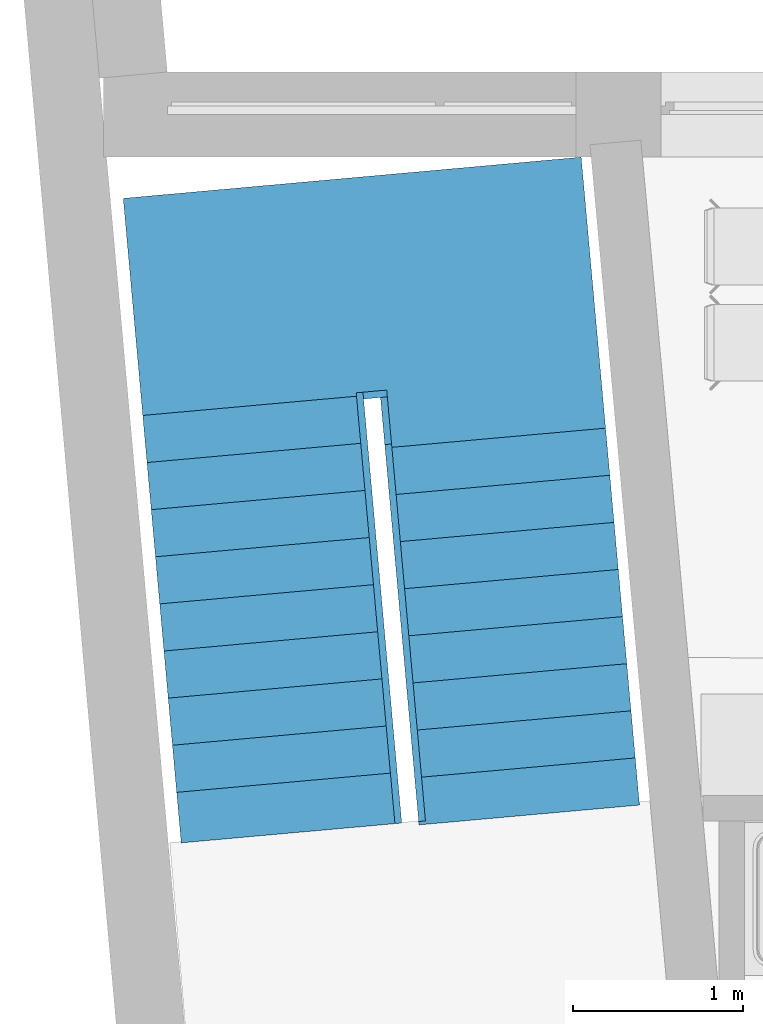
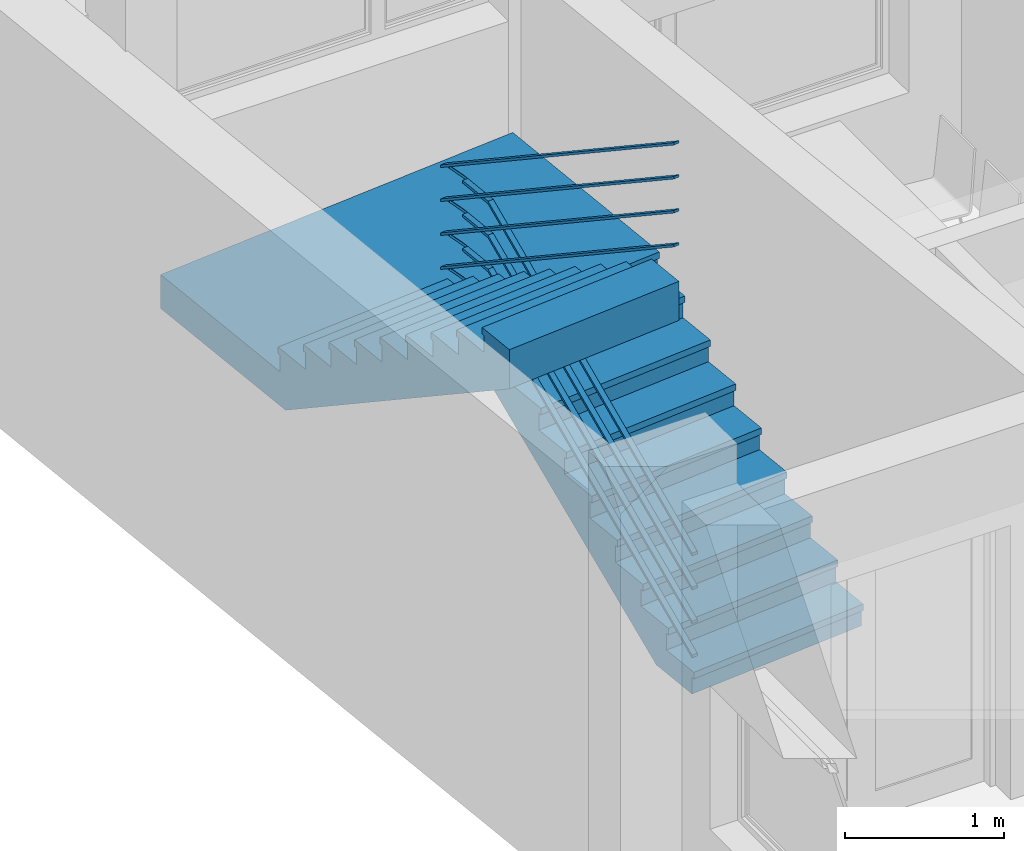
# One storey, part 21 of 165: 1 stair.
"""IFC2X3 building model written with IfcOpenShell, lengths in millimetres."""

import ifcopenshell
import ifcopenshell.guid

model = None  # the IFC model being written
_history = None  # IfcOwnerHistory: only IFC2X3 demands one
_inside = {}  # id of a spatial element -> (the spatial element, [elements in it])
_under = {}  # id of a project, library or spatial element -> (it, [spatial elements below it])
_declared = {}  # id of a project -> (the project, [libraries it declares])
_typed = {}  # id of a type object -> (the type object, [elements of that type])
_made_of = {}  # id of a material, layer set ... -> (it, [elements and type objects made of it])


def new_model(schema):
    """Start an empty IFC model of exactly this schema.

    Asked for "IFC4X3", IfcOpenShell would pick the latest addendum, in which some entities
    have other attributes; the version numbers below select the first issue.
    IFC2X3 requires an IfcOwnerHistory on every rooted entity: one is made here for all.
    """
    global model, _history
    if schema == "IFC4X3":
        model = ifcopenshell.file(schema_version=(4, 3, 0, 0))
    else:
        model = ifcopenshell.file(schema=schema)
    _inside.clear()
    _under.clear()
    _declared.clear()
    _typed.clear()
    _made_of.clear()
    _history = None
    if model.schema == "IFC2X3":
        org = make("IfcOrganization", Name="unknown")
        user = make(
            "IfcPersonAndOrganization",
            ThePerson=make("IfcPerson", FamilyName="unknown"),
            TheOrganization=org,
        )
        app = make(
            "IfcApplication",
            ApplicationDeveloper=org,
            Version="unknown",
            ApplicationFullName="unknown",
            ApplicationIdentifier="unknown",
        )
        _history = make(
            "IfcOwnerHistory",
            OwningUser=user,
            OwningApplication=app,
            ChangeAction="ADDED",
            CreationDate=0,
        )
    return model


def make(cls, **values):
    """One entity of the class cls with the attributes given. An attribute that is None is left unset."""
    return model.create_entity(
        cls, **{name: value for name, value in values.items() if value is not None}
    )


def entity(cls, *values):
    """Any entity or typed value of the class cls, its attributes in the order of the schema. None: left unset."""
    e = model.create_entity(cls)
    for i, value in enumerate(values):
        if value is not None:
            e[i] = value
    return e


def rooted(cls, **values):
    """An entity with a GlobalId (a new one), such as an element, a storey or a relation."""
    return make(cls, GlobalId=ifcopenshell.guid.new(), OwnerHistory=_history, **values)


def si_unit(unit_type, name, prefix=None):
    """IfcSIUnit, for example si_unit("LENGTHUNIT", "METRE", prefix="MILLI")."""
    return make("IfcSIUnit", UnitType=unit_type, Prefix=prefix, Name=name)


def converted_unit(unit_type, name, factor, base, dimensions=None, offset=None):
    """IfcConversionBasedUnit, such as the inch: factor (a typed value) times the base unit."""
    return make(
        "IfcConversionBasedUnit"
        if offset is None
        else "IfcConversionBasedUnitWithOffset",
        ConversionOffset=offset,
        Dimensions=None
        if dimensions is None
        else entity("IfcDimensionalExponents", *dimensions),
        UnitType=unit_type,
        Name=name,
        ConversionFactor=make(
            "IfcMeasureWithUnit", ValueComponent=factor, UnitComponent=base
        ),
    )


def money_unit(currency):
    """IfcMonetaryUnit."""
    return make("IfcMonetaryUnit", Currency=currency)


def assignment(units):
    """IfcUnitAssignment: the units of a project."""
    return None if units is None else make("IfcUnitAssignment", Units=units)


def point(xyz):
    """IfcCartesianPoint."""
    return None if xyz is None else make("IfcCartesianPoint", Coordinates=xyz)


def direction(xyz):
    """IfcDirection."""
    return None if xyz is None else make("IfcDirection", DirectionRatios=xyz)


def frame(location, z_axis=None, x_axis=None):
    """IfcAxis2Placement3D, a coordinate frame: its origin and axes. An axis left out is left unset."""
    return make(
        "IfcAxis2Placement3D",
        Location=point(location),
        Axis=direction(z_axis),
        RefDirection=direction(x_axis),
    )


def origin_with_axes():
    """The frame at (0, 0, 0) with the z axis (0, 0, 1) and the x axis (1, 0, 0) written out."""
    return frame((0.0, 0.0, 0.0), z_axis=(0.0, 0.0, 1.0), x_axis=(1.0, 0.0, 0.0))


def place(relative_to, where):
    """IfcLocalPlacement: puts the frame where relative to a parent placement (None: the world)."""
    return make(
        "IfcLocalPlacement", PlacementRelTo=relative_to, RelativePlacement=where
    )


def context(
    kind, dimensions, precision=None, world=None, true_north=None, identifier=None
):
    """IfcGeometricRepresentationContext, for example the 3D "Model" context."""
    return make(
        "IfcGeometricRepresentationContext",
        ContextIdentifier=identifier,
        ContextType=kind,
        CoordinateSpaceDimension=dimensions,
        Precision=precision,
        WorldCoordinateSystem=world,
        TrueNorth=true_north,
    )


def subcontext(parent, identifier, kind, view, scale=None):
    """IfcGeometricRepresentationSubContext, for example "Body" below "Model"."""
    return make(
        "IfcGeometricRepresentationSubContext",
        ContextIdentifier=identifier,
        ContextType=kind,
        ParentContext=parent,
        TargetScale=scale,
        TargetView=view,
    )


def project(units=None, contexts=None):
    """IfcProject with its units and contexts."""
    return rooted(
        "IfcProject",
        Name="project",
        RepresentationContexts=contexts,
        UnitsInContext=assignment(units),
    )


def spatial(cls, under=None, at=None, **own):
    """A site, building, storey or space (cls), placed at a placement, below another one or the project."""
    s = rooted(cls, ObjectPlacement=at, **own)
    if under is not None:
        _under.setdefault(under.id(), (under, []))[1].append(s)
    return s


def faces_of(points, faces, orient=None, outer=None):
    """IfcFace entities. A face is a list of loops; a loop is a list of indices into points, from 0.

    orient and outer hold one flag for each loop. By default every Orientation is true, the
    first loop of a face is its IfcFaceOuterBound and the others are IfcFaceBound.
    """
    made = []
    for i, loops in enumerate(faces):
        bounds = []
        for j, loop in enumerate(loops):
            is_outer = j == 0 if outer is None else outer[i][j]
            bounds.append(
                make(
                    "IfcFaceOuterBound" if is_outer else "IfcFaceBound",
                    Bound=make("IfcPolyLoop", Polygon=[points[k] for k in loop]),
                    Orientation=True if orient is None else orient[i][j],
                )
            )
        made.append(make("IfcFace", Bounds=bounds))
    return made


def faceted_brep(points, faces, orient=None, outer=None, voids=None):
    """IfcFacetedBrep: a solid bounded by flat faces; with voids (closed shells), ...WithVoids."""
    shared = [point(p) for p in points]
    hull = make("IfcClosedShell", CfsFaces=faces_of(shared, faces, orient, outer))
    if voids is None:
        return make("IfcFacetedBrep", Outer=hull)
    return make(
        "IfcFacetedBrepWithVoids",
        Outer=hull,
        Voids=[
            make(cls, CfsFaces=faces_of(shared, fs, o, b)) for cls, fs, o, b in voids
        ],
    )


def shape(context_of_items, identifier, shape_type, items):
    """IfcShapeRepresentation: the items that make up one representation, for example the "Body"."""
    return make(
        "IfcShapeRepresentation",
        ContextOfItems=context_of_items,
        RepresentationIdentifier=identifier,
        RepresentationType=shape_type,
        Items=items,
    )


def source(mapping_origin, context_of_items, identifier, shape_type, items):
    """IfcRepresentationMap: a shape defined once, which mapped items show again and again."""
    return make(
        "IfcRepresentationMap",
        MappingOrigin=mapping_origin,
        MappedRepresentation=shape(context_of_items, identifier, shape_type, items),
    )


def transform(
    local_origin,
    x_axis=None,
    y_axis=None,
    z_axis=None,
    scale=None,
    scale2=None,
    scale3=None,
    uniform=True,
):
    """IfcCartesianTransformationOperator3D, or its non-uniform kind. x_axis, y_axis, z_axis: its Axis1, 2, 3."""
    if uniform:
        return make(
            "IfcCartesianTransformationOperator3D",
            Axis1=direction(x_axis),
            Axis2=direction(y_axis),
            LocalOrigin=point(local_origin),
            Scale=scale,
            Axis3=direction(z_axis),
        )
    return make(
        "IfcCartesianTransformationOperator3DnonUniform",
        Axis1=direction(x_axis),
        Axis2=direction(y_axis),
        LocalOrigin=point(local_origin),
        Scale=scale,
        Axis3=direction(z_axis),
        Scale2=scale2,
        Scale3=scale3,
    )


def mapped(mapping_source, mapping_target):
    """IfcMappedItem: shows the shape of a source again, moved by a transform."""
    return make(
        "IfcMappedItem", MappingSource=mapping_source, MappingTarget=mapping_target
    )


def material(Name=None, Category=None):
    """IfcMaterial."""
    return make("IfcMaterial", Name=Name, Category=Category)


def made_of(thing, what):
    """Note that an element or type object is made of a material, layer set ...; save() writes the relation."""
    if what is not None:
        _made_of.setdefault(what.id(), (what, []))[1].append(thing)
    return thing


def element(
    cls,
    number,
    at=None,
    inside=None,
    cuts=None,
    type_object=None,
    material=None,
    context=None,
    identifier="Body",
    shape_type=None,
    held_by="IfcProductDefinitionShape",
    body=None,
    shapes=None,
    **own,
):
    """One element of the class cls, such as IfcWall. Its Tag is "e" and its number.

    at: its placement. inside: the storey or other place that contains it. cuts: it is an
    opening in that element (IfcRelVoidsElement). A single representation is given by context,
    identifier, shape_type and body (its items); several are given by shapes. held_by: the class
    of the entity that holds the representations. save() writes the other relations.
    """
    e = rooted(cls, Tag="e%d" % number, ObjectPlacement=at, **own)
    if body is not None:
        shapes = [shape(context, identifier, shape_type, body)]
    if shapes is not None:
        e.Representation = make(held_by, Representations=shapes)
    if inside is not None:
        _inside.setdefault(inside.id(), (inside, []))[1].append(e)
    if cuts is not None:
        rooted(
            "IfcRelVoidsElement", RelatingBuildingElement=cuts, RelatedOpeningElement=e
        )
    if type_object is not None:
        _typed.setdefault(type_object.id(), (type_object, []))[1].append(e)
    return made_of(e, material)


def aggregate(whole, parts):
    """IfcRelAggregates: a whole, such as a stair, and the parts it consists of."""
    return rooted("IfcRelAggregates", RelatingObject=whole, RelatedObjects=parts)


def save(model, path):
    """Write the relations noted so far, then the file.

    IfcRelAggregates (storeys below a building ...), IfcRelContainedInSpatialStructure (elements
    in a storey), IfcRelDefinesByType, IfcRelAssociatesMaterial and IfcRelDeclares: one each for
    every whole, place, type object, material and project.
    """
    for whole, parts in _under.values():
        aggregate(whole, parts)
    for where, things in _inside.values():
        rooted(
            "IfcRelContainedInSpatialStructure",
            RelatedElements=things,
            RelatingStructure=where,
        )
    for kind, things in _typed.values():
        rooted("IfcRelDefinesByType", RelatedObjects=things, RelatingType=kind)
    for what, things in _made_of.values():
        rooted("IfcRelAssociatesMaterial", RelatedObjects=things, RelatingMaterial=what)
    for by, libraries in _declared.values():
        rooted("IfcRelDeclares", RelatingContext=by, RelatedDefinitions=libraries)
    model.write(path)


model = new_model("IFC2X3")

# Units and contexts
model_context = context("Model", 3, precision=1e-05, world=origin_with_axes(), true_north=direction((0.0, 1.0)))
body_context = subcontext(model_context, "Body", "Model", "MODEL_VIEW")
ifc_project = project(units=[si_unit("LENGTHUNIT", "METRE", prefix="MILLI"), si_unit("AREAUNIT", "SQUARE_METRE"), si_unit("VOLUMEUNIT", "CUBIC_METRE"), converted_unit("PLANEANGLEUNIT", "DEGREE", entity("IfcPlaneAngleMeasure", 0.0174532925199), si_unit("PLANEANGLEUNIT", "RADIAN"), dimensions=[0, 0, 0, 0, 0, 0, 0]), si_unit("SOLIDANGLEUNIT", "STERADIAN"), money_unit("USD"), converted_unit("TIMEUNIT", "Year", entity("IfcTimeMeasure", 31556926.0), si_unit("TIMEUNIT", "SECOND"), dimensions=[0, 0, 0, 0, 0, 0, 0]), si_unit("MASSUNIT", "GRAM"), si_unit("THERMODYNAMICTEMPERATUREUNIT", "DEGREE_CELSIUS"), si_unit("LUMINOUSINTENSITYUNIT", "LUMEN")], contexts=[model_context])

# Site, building, storey
site_placement = place(None, origin_with_axes())
site = spatial("IfcSite", under=ifc_project, at=site_placement, Name="Site", CompositionType="ELEMENT")
building_placement = place(site_placement, origin_with_axes())
building = spatial("IfcBuilding", under=site, at=building_placement, Name="Building", CompositionType="ELEMENT")
storey_placement = place(building_placement, frame((0.0, 0.0, 6300.0), z_axis=(0.0, 0.0, 1.0), x_axis=(1.0, 0.0, 0.0)))
storey = spatial("IfcBuildingStorey", under=building, at=storey_placement, Name="4KORRUS", CompositionType="ELEMENT", Elevation=6300.0)

# Stair
ifc_material = material(Name="50 %")
shared_shape = source(origin_with_axes(), body_context, "Body", "Brep", [
    faceted_brep([(389.572, 0.0, 0.0), (389.572, 1300.0, 0.0), (2561.447, 1300.0, 1340.0), (2561.447, 0.0, 1340.0), (30.0, 0.0, 0.0), (30.0, 1300.0, 0.0), (30.0, 1300.0, 127.778), (307.778, 1300.0, 127.778), (307.778, 1300.0, 305.556), (585.556, 1300.0, 305.556), (585.556, 1300.0, 483.333), (863.333, 1300.0, 483.333), (863.333, 1300.0, 661.111), (1141.111, 1300.0, 661.111), (1141.111, 1300.0, 838.889), (1418.889, 1300.0, 838.889), (1418.889, 1300.0, 1016.667), (1696.667, 1300.0, 1016.667), (1696.667, 1300.0, 1194.444), (1974.444, 1300.0, 1194.444), (1974.444, 1300.0, 1372.222), (2252.222, 1300.0, 1372.222), (2252.222, 1300.0, 1550.0), (2530.0, 1300.0, 1550.0), (3800.0, 1300.0, 1550.0), (3800.0, 1300.0, 1340.0), (3800.0, 0.0, 1340.0), (3800.0, 0.0, 1550.0), (2530.0, 0.0, 1550.0), (2252.222, 0.0, 1550.0), (2252.222, 0.0, 1372.222), (1974.444, 0.0, 1372.222), (1974.444, 0.0, 1194.444), (1696.667, 0.0, 1194.444), (1696.667, 0.0, 1016.667), (1418.889, 0.0, 1016.667), (1418.889, 0.0, 838.889), (1141.111, 0.0, 838.889), (1141.111, 0.0, 661.111), (863.333, 0.0, 661.111), (863.333, 0.0, 483.333), (585.556, 0.0, 483.333), (585.556, 0.0, 305.556), (307.778, 0.0, 305.556), (307.778, 0.0, 127.778), (30.0, 0.0, 127.778)], [[[0, 1, 2, 3]], [[4, 5, 1, 0]], [[1, 5, 6, 7, 8, 9, 10, 11, 12, 13, 14, 15, 16, 17, 18, 19, 20, 21, 22, 23, 24, 25, 2]], [[3, 2, 25, 26]], [[0, 3, 26, 27, 28, 29, 30, 31, 32, 33, 34, 35, 36, 37, 38, 39, 40, 41, 42, 43, 44, 45, 4]], [[45, 6, 5, 4]], [[44, 7, 6, 45]], [[43, 8, 7, 44]], [[42, 9, 8, 43]], [[41, 10, 9, 42]], [[40, 11, 10, 41]], [[39, 12, 11, 40]], [[38, 13, 12, 39]], [[37, 14, 13, 38]], [[36, 15, 14, 37]], [[35, 16, 15, 36]], [[34, 17, 16, 35]], [[33, 18, 17, 34]], [[32, 19, 18, 33]], [[31, 20, 19, 32]], [[30, 21, 20, 31]], [[29, 22, 21, 30]], [[28, 23, 22, 29]], [[27, 24, 23, 28]], [[26, 25, 24, 27]]]),
    faceted_brep([(2500.0, 1300.0, 1550.0), (2500.0, 1400.0, 1550.0), (2500.0, 1400.0, 1340.0), (2500.0, 1300.0, 1340.0), (3800.0, 1300.0, 1550.0), (3800.0, 1400.0, 1550.0), (3800.0, 1400.0, 1340.0), (2561.447, 1400.0, 1340.0), (2561.447, 1300.0, 1340.0), (3800.0, 1300.0, 1340.0)], [[[0, 1, 2, 3]], [[4, 5, 1, 0]], [[1, 5, 6, 7, 2]], [[3, 2, 7, 8]], [[0, 3, 8, 9, 4]], [[9, 6, 5, 4]], [[8, 7, 6, 9]]]),
    faceted_brep([(2500.0, 1400.0, 1550.0), (2500.0, 2700.0, 1550.0), (2500.0, 2700.0, 1340.0), (2500.0, 1400.0, 1340.0), (3800.0, 1400.0, 1550.0), (3800.0, 2700.0, 1550.0), (3800.0, 2700.0, 1340.0), (3800.0, 1400.0, 1340.0)], [[[0, 1, 2, 3]], [[4, 5, 1, 0]], [[1, 5, 6, 2]], [[3, 2, 6, 7]], [[0, 3, 7, 4]], [[7, 6, 5, 4]]]),
    faceted_brep([(2500.0, 1400.0, 1340.0), (2438.553, 1400.0, 1340.0), (2438.553, 2700.0, 1340.0), (2500.0, 2700.0, 1340.0), (2500.0, 1400.0, 1550.0), (2470.0, 1400.0, 1550.0), (2470.0, 1400.0, 1727.778), (2192.222, 1400.0, 1727.778), (2192.222, 1400.0, 1905.556), (1914.444, 1400.0, 1905.556), (1914.444, 1400.0, 2083.333), (1636.667, 1400.0, 2083.333), (1636.667, 1400.0, 2261.111), (1358.889, 1400.0, 2261.111), (1358.889, 1400.0, 2438.889), (1081.111, 1400.0, 2438.889), (1081.111, 1400.0, 2616.667), (803.333, 1400.0, 2616.667), (803.333, 1400.0, 2794.444), (525.556, 1400.0, 2794.444), (525.556, 1400.0, 2972.222), (247.778, 1400.0, 2972.222), (247.778, 1400.0, 3150.0), (0.0, 1400.0, 3150.0), (0.0, 1400.0, 2900.674), (0.0, 2700.0, 2900.674), (0.0, 2700.0, 3150.0), (247.778, 2700.0, 3150.0), (247.778, 2700.0, 2972.222), (525.556, 2700.0, 2972.222), (525.556, 2700.0, 2794.444), (803.333, 2700.0, 2794.444), (803.333, 2700.0, 2616.667), (1081.111, 2700.0, 2616.667), (1081.111, 2700.0, 2438.889), (1358.889, 2700.0, 2438.889), (1358.889, 2700.0, 2261.111), (1636.667, 2700.0, 2261.111), (1636.667, 2700.0, 2083.333), (1914.444, 2700.0, 2083.333), (1914.444, 2700.0, 1905.556), (2192.222, 2700.0, 1905.556), (2192.222, 2700.0, 1727.778), (2470.0, 2700.0, 1727.778), (2470.0, 2700.0, 1550.0), (2500.0, 2700.0, 1550.0)], [[[0, 1, 2, 3]], [[0, 4, 5, 6, 7, 8, 9, 10, 11, 12, 13, 14, 15, 16, 17, 18, 19, 20, 21, 22, 23, 24, 1]], [[1, 24, 25, 2]], [[3, 2, 25, 26, 27, 28, 29, 30, 31, 32, 33, 34, 35, 36, 37, 38, 39, 40, 41, 42, 43, 44, 45]], [[4, 0, 3, 45]], [[5, 4, 45, 44]], [[6, 5, 44, 43]], [[7, 6, 43, 42]], [[8, 7, 42, 41]], [[9, 8, 41, 40]], [[10, 9, 40, 39]], [[11, 10, 39, 38]], [[12, 11, 38, 37]], [[13, 12, 37, 36]], [[14, 13, 36, 35]], [[15, 14, 35, 34]], [[16, 15, 34, 33]], [[17, 16, 33, 32]], [[18, 17, 32, 31]], [[19, 18, 31, 30]], [[20, 19, 30, 29]], [[21, 20, 29, 28]], [[22, 21, 28, 27]], [[23, 22, 27, 26]], [[24, 23, 26, 25]]]),
    faceted_brep([(0.0, 0.0, 0.0), (0.0, 1300.0, 0.0), (30.0, 1300.0, 0.0), (30.0, 0.0, 0.0), (0.0, 0.0, 127.778), (0.0, 1300.0, 127.778), (30.0, 1300.0, 127.778), (30.0, 0.0, 127.778)], [[[0, 1, 2, 3]], [[4, 5, 1, 0]], [[1, 5, 6, 2]], [[3, 2, 6, 7]], [[0, 3, 7, 4]], [[7, 6, 5, 4]]]),
    faceted_brep([(277.778, 0.0, 177.778), (277.778, 1300.0, 177.778), (307.778, 1300.0, 177.778), (307.778, 0.0, 177.778), (277.778, 0.0, 305.556), (277.778, 1300.0, 305.556), (307.778, 1300.0, 305.556), (307.778, 0.0, 305.556)], [[[0, 1, 2, 3]], [[4, 5, 1, 0]], [[1, 5, 6, 2]], [[3, 2, 6, 7]], [[0, 3, 7, 4]], [[7, 6, 5, 4]]]),
    faceted_brep([(555.556, 0.0, 355.556), (555.556, 1300.0, 355.556), (585.556, 1300.0, 355.556), (585.556, 0.0, 355.556), (555.556, 0.0, 483.333), (555.556, 1300.0, 483.333), (585.556, 1300.0, 483.333), (585.556, 0.0, 483.333)], [[[0, 1, 2, 3]], [[4, 5, 1, 0]], [[1, 5, 6, 2]], [[3, 2, 6, 7]], [[0, 3, 7, 4]], [[7, 6, 5, 4]]]),
    faceted_brep([(833.333, 0.0, 533.333), (833.333, 1300.0, 533.333), (863.333, 1300.0, 533.333), (863.333, 0.0, 533.333), (833.333, 0.0, 661.111), (833.333, 1300.0, 661.111), (863.333, 1300.0, 661.111), (863.333, 0.0, 661.111)], [[[0, 1, 2, 3]], [[4, 5, 1, 0]], [[1, 5, 6, 2]], [[3, 2, 6, 7]], [[0, 3, 7, 4]], [[7, 6, 5, 4]]]),
    faceted_brep([(1111.111, 0.0, 711.111), (1111.111, 1300.0, 711.111), (1141.111, 1300.0, 711.111), (1141.111, 0.0, 711.111), (1111.111, 0.0, 838.889), (1111.111, 1300.0, 838.889), (1141.111, 1300.0, 838.889), (1141.111, 0.0, 838.889)], [[[0, 1, 2, 3]], [[4, 5, 1, 0]], [[1, 5, 6, 2]], [[3, 2, 6, 7]], [[0, 3, 7, 4]], [[7, 6, 5, 4]]]),
    faceted_brep([(1388.889, 0.0, 888.889), (1388.889, 1300.0, 888.889), (1418.889, 1300.0, 888.889), (1418.889, 0.0, 888.889), (1388.889, 0.0, 1016.667), (1388.889, 1300.0, 1016.667), (1418.889, 1300.0, 1016.667), (1418.889, 0.0, 1016.667)], [[[0, 1, 2, 3]], [[4, 5, 1, 0]], [[1, 5, 6, 2]], [[3, 2, 6, 7]], [[0, 3, 7, 4]], [[7, 6, 5, 4]]]),
    faceted_brep([(1666.667, 0.0, 1066.667), (1666.667, 1300.0, 1066.667), (1696.667, 1300.0, 1066.667), (1696.667, 0.0, 1066.667), (1666.667, 0.0, 1194.444), (1666.667, 1300.0, 1194.444), (1696.667, 1300.0, 1194.444), (1696.667, 0.0, 1194.444)], [[[0, 1, 2, 3]], [[4, 5, 1, 0]], [[1, 5, 6, 2]], [[3, 2, 6, 7]], [[0, 3, 7, 4]], [[7, 6, 5, 4]]]),
    faceted_brep([(1944.444, 0.0, 1244.444), (1944.444, 1300.0, 1244.444), (1974.444, 1300.0, 1244.444), (1974.444, 0.0, 1244.444), (1944.444, 0.0, 1372.222), (1944.444, 1300.0, 1372.222), (1974.444, 1300.0, 1372.222), (1974.444, 0.0, 1372.222)], [[[0, 1, 2, 3]], [[4, 5, 1, 0]], [[1, 5, 6, 2]], [[3, 2, 6, 7]], [[0, 3, 7, 4]], [[7, 6, 5, 4]]]),
    faceted_brep([(2222.222, 0.0, 1422.222), (2222.222, 1300.0, 1422.222), (2252.222, 1300.0, 1422.222), (2252.222, 0.0, 1422.222), (2222.222, 0.0, 1550.0), (2222.222, 1300.0, 1550.0), (2252.222, 1300.0, 1550.0), (2252.222, 0.0, 1550.0)], [[[0, 1, 2, 3]], [[4, 5, 1, 0]], [[1, 5, 6, 2]], [[3, 2, 6, 7]], [[0, 3, 7, 4]], [[7, 6, 5, 4]]]),
    faceted_brep([(2500.0, 1400.0, 1600.0), (2470.0, 1400.0, 1600.0), (2470.0, 2700.0, 1600.0), (2500.0, 2700.0, 1600.0), (2500.0, 1400.0, 1727.778), (2470.0, 1400.0, 1727.778), (2470.0, 2700.0, 1727.778), (2500.0, 2700.0, 1727.778)], [[[0, 1, 2, 3]], [[0, 4, 5, 1]], [[1, 5, 6, 2]], [[3, 2, 6, 7]], [[4, 0, 3, 7]], [[5, 4, 7, 6]]]),
    faceted_brep([(2222.222, 1400.0, 1777.778), (2192.222, 1400.0, 1777.778), (2192.222, 2700.0, 1777.778), (2222.222, 2700.0, 1777.778), (2222.222, 1400.0, 1905.556), (2192.222, 1400.0, 1905.556), (2192.222, 2700.0, 1905.556), (2222.222, 2700.0, 1905.556)], [[[0, 1, 2, 3]], [[0, 4, 5, 1]], [[1, 5, 6, 2]], [[3, 2, 6, 7]], [[4, 0, 3, 7]], [[5, 4, 7, 6]]]),
    faceted_brep([(1944.444, 1400.0, 1955.556), (1914.444, 1400.0, 1955.556), (1914.444, 2700.0, 1955.556), (1944.444, 2700.0, 1955.556), (1944.444, 1400.0, 2083.333), (1914.444, 1400.0, 2083.333), (1914.444, 2700.0, 2083.333), (1944.444, 2700.0, 2083.333)], [[[0, 1, 2, 3]], [[0, 4, 5, 1]], [[1, 5, 6, 2]], [[3, 2, 6, 7]], [[4, 0, 3, 7]], [[5, 4, 7, 6]]]),
    faceted_brep([(1666.667, 1400.0, 2133.333), (1636.667, 1400.0, 2133.333), (1636.667, 2700.0, 2133.333), (1666.667, 2700.0, 2133.333), (1666.667, 1400.0, 2261.111), (1636.667, 1400.0, 2261.111), (1636.667, 2700.0, 2261.111), (1666.667, 2700.0, 2261.111)], [[[0, 1, 2, 3]], [[0, 4, 5, 1]], [[1, 5, 6, 2]], [[3, 2, 6, 7]], [[4, 0, 3, 7]], [[5, 4, 7, 6]]]),
    faceted_brep([(1388.889, 1400.0, 2311.111), (1358.889, 1400.0, 2311.111), (1358.889, 2700.0, 2311.111), (1388.889, 2700.0, 2311.111), (1388.889, 1400.0, 2438.889), (1358.889, 1400.0, 2438.889), (1358.889, 2700.0, 2438.889), (1388.889, 2700.0, 2438.889)], [[[0, 1, 2, 3]], [[0, 4, 5, 1]], [[1, 5, 6, 2]], [[3, 2, 6, 7]], [[4, 0, 3, 7]], [[5, 4, 7, 6]]]),
    faceted_brep([(1111.111, 1400.0, 2488.889), (1081.111, 1400.0, 2488.889), (1081.111, 2700.0, 2488.889), (1111.111, 2700.0, 2488.889), (1111.111, 1400.0, 2616.667), (1081.111, 1400.0, 2616.667), (1081.111, 2700.0, 2616.667), (1111.111, 2700.0, 2616.667)], [[[0, 1, 2, 3]], [[0, 4, 5, 1]], [[1, 5, 6, 2]], [[3, 2, 6, 7]], [[4, 0, 3, 7]], [[5, 4, 7, 6]]]),
    faceted_brep([(833.333, 1400.0, 2666.667), (803.333, 1400.0, 2666.667), (803.333, 2700.0, 2666.667), (833.333, 2700.0, 2666.667), (833.333, 1400.0, 2794.444), (803.333, 1400.0, 2794.444), (803.333, 2700.0, 2794.444), (833.333, 2700.0, 2794.444)], [[[0, 1, 2, 3]], [[0, 4, 5, 1]], [[1, 5, 6, 2]], [[3, 2, 6, 7]], [[4, 0, 3, 7]], [[5, 4, 7, 6]]]),
    faceted_brep([(555.556, 1400.0, 2844.444), (525.556, 1400.0, 2844.444), (525.556, 2700.0, 2844.444), (555.556, 2700.0, 2844.444), (555.556, 1400.0, 2972.222), (525.556, 1400.0, 2972.222), (525.556, 2700.0, 2972.222), (555.556, 2700.0, 2972.222)], [[[0, 1, 2, 3]], [[0, 4, 5, 1]], [[1, 5, 6, 2]], [[3, 2, 6, 7]], [[4, 0, 3, 7]], [[5, 4, 7, 6]]]),
    faceted_brep([(277.778, 1400.0, 3022.222), (247.778, 1400.0, 3022.222), (247.778, 2700.0, 3022.222), (277.778, 2700.0, 3022.222), (277.778, 1400.0, 3150.0), (247.778, 1400.0, 3150.0), (247.778, 2700.0, 3150.0), (277.778, 2700.0, 3150.0)], [[[0, 1, 2, 3]], [[0, 4, 5, 1]], [[1, 5, 6, 2]], [[3, 2, 6, 7]], [[4, 0, 3, 7]], [[5, 4, 7, 6]]]),
    faceted_brep([(-20.0, 0.0, 127.778), (-20.0, 1300.0, 127.778), (307.778, 1300.0, 127.778), (307.778, 0.0, 127.778), (-20.0, 0.0, 177.778), (-20.0, 1300.0, 177.778), (307.778, 1300.0, 177.778), (307.778, 0.0, 177.778)], [[[0, 1, 2, 3]], [[4, 5, 1, 0]], [[1, 5, 6, 2]], [[3, 2, 6, 7]], [[0, 3, 7, 4]], [[7, 6, 5, 4]]]),
    faceted_brep([(257.778, 0.0, 305.556), (257.778, 1300.0, 305.556), (585.556, 1300.0, 305.556), (585.556, 0.0, 305.556), (257.778, 0.0, 355.556), (257.778, 1300.0, 355.556), (585.556, 1300.0, 355.556), (585.556, 0.0, 355.556)], [[[0, 1, 2, 3]], [[4, 5, 1, 0]], [[1, 5, 6, 2]], [[3, 2, 6, 7]], [[0, 3, 7, 4]], [[7, 6, 5, 4]]]),
    faceted_brep([(535.556, 0.0, 483.333), (535.556, 1300.0, 483.333), (863.333, 1300.0, 483.333), (863.333, 0.0, 483.333), (535.556, 0.0, 533.333), (535.556, 1300.0, 533.333), (863.333, 1300.0, 533.333), (863.333, 0.0, 533.333)], [[[0, 1, 2, 3]], [[4, 5, 1, 0]], [[1, 5, 6, 2]], [[3, 2, 6, 7]], [[0, 3, 7, 4]], [[7, 6, 5, 4]]]),
    faceted_brep([(813.333, 0.0, 661.111), (813.333, 1300.0, 661.111), (1141.111, 1300.0, 661.111), (1141.111, 0.0, 661.111), (813.333, 0.0, 711.111), (813.333, 1300.0, 711.111), (1141.111, 1300.0, 711.111), (1141.111, 0.0, 711.111)], [[[0, 1, 2, 3]], [[4, 5, 1, 0]], [[1, 5, 6, 2]], [[3, 2, 6, 7]], [[0, 3, 7, 4]], [[7, 6, 5, 4]]]),
    faceted_brep([(1091.111, 0.0, 838.889), (1091.111, 1300.0, 838.889), (1418.889, 1300.0, 838.889), (1418.889, 0.0, 838.889), (1091.111, 0.0, 888.889), (1091.111, 1300.0, 888.889), (1418.889, 1300.0, 888.889), (1418.889, 0.0, 888.889)], [[[0, 1, 2, 3]], [[4, 5, 1, 0]], [[1, 5, 6, 2]], [[3, 2, 6, 7]], [[0, 3, 7, 4]], [[7, 6, 5, 4]]]),
    faceted_brep([(1368.889, 0.0, 1016.667), (1368.889, 1300.0, 1016.667), (1696.667, 1300.0, 1016.667), (1696.667, 0.0, 1016.667), (1368.889, 0.0, 1066.667), (1368.889, 1300.0, 1066.667), (1696.667, 1300.0, 1066.667), (1696.667, 0.0, 1066.667)], [[[0, 1, 2, 3]], [[4, 5, 1, 0]], [[1, 5, 6, 2]], [[3, 2, 6, 7]], [[0, 3, 7, 4]], [[7, 6, 5, 4]]]),
    faceted_brep([(1646.667, 0.0, 1194.444), (1646.667, 1300.0, 1194.444), (1974.444, 1300.0, 1194.444), (1974.444, 0.0, 1194.444), (1646.667, 0.0, 1244.444), (1646.667, 1300.0, 1244.444), (1974.444, 1300.0, 1244.444), (1974.444, 0.0, 1244.444)], [[[0, 1, 2, 3]], [[4, 5, 1, 0]], [[1, 5, 6, 2]], [[3, 2, 6, 7]], [[0, 3, 7, 4]], [[7, 6, 5, 4]]]),
    faceted_brep([(1924.444, 0.0, 1372.222), (1924.444, 1300.0, 1372.222), (2252.222, 1300.0, 1372.222), (2252.222, 0.0, 1372.222), (1924.444, 0.0, 1422.222), (1924.444, 1300.0, 1422.222), (2252.222, 1300.0, 1422.222), (2252.222, 0.0, 1422.222)], [[[0, 1, 2, 3]], [[4, 5, 1, 0]], [[1, 5, 6, 2]], [[3, 2, 6, 7]], [[0, 3, 7, 4]], [[7, 6, 5, 4]]]),
    faceted_brep([(2202.222, 0.0, 1550.0), (2202.222, 1300.0, 1550.0), (2500.0, 1300.0, 1550.0), (2500.0, 0.0, 1550.0), (2202.222, 0.0, 1600.0), (2202.222, 1300.0, 1600.0), (2500.0, 1300.0, 1600.0), (2500.0, 0.0, 1600.0)], [[[0, 1, 2, 3]], [[4, 5, 1, 0]], [[1, 5, 6, 2]], [[3, 2, 6, 7]], [[0, 3, 7, 4]], [[7, 6, 5, 4]]]),
    faceted_brep([(3800.0, 0.0, 1550.0), (3800.0, 1400.0, 1550.0), (3800.0, 1400.0, 1600.0), (3800.0, 0.0, 1600.0), (2500.0, 0.0, 1550.0), (2500.0, 1400.0, 1550.0), (2500.0, 1400.0, 1600.0), (2500.0, 0.0, 1600.0)], [[[0, 1, 2, 3]], [[4, 5, 1, 0]], [[1, 5, 6, 2]], [[3, 2, 6, 7]], [[0, 3, 7, 4]], [[7, 6, 5, 4]]]),
    faceted_brep([(3800.0, 1400.0, 1550.0), (3800.0, 2700.0, 1550.0), (3800.0, 2700.0, 1600.0), (3800.0, 1400.0, 1600.0), (2470.0, 1400.0, 1550.0), (2470.0, 2700.0, 1550.0), (2470.0, 2700.0, 1600.0), (2470.0, 1400.0, 1600.0)], [[[0, 1, 2, 3]], [[4, 5, 1, 0]], [[1, 5, 6, 2]], [[3, 2, 6, 7]], [[0, 3, 7, 4]], [[7, 6, 5, 4]]]),
    faceted_brep([(2520.0, 1400.0, 1727.778), (2192.222, 1400.0, 1727.778), (2192.222, 2700.0, 1727.778), (2520.0, 2700.0, 1727.778), (2520.0, 1400.0, 1777.778), (2192.222, 1400.0, 1777.778), (2192.222, 2700.0, 1777.778), (2520.0, 2700.0, 1777.778)], [[[0, 1, 2, 3]], [[0, 4, 5, 1]], [[1, 5, 6, 2]], [[3, 2, 6, 7]], [[4, 0, 3, 7]], [[5, 4, 7, 6]]]),
    faceted_brep([(2242.222, 1400.0, 1905.556), (1914.444, 1400.0, 1905.556), (1914.444, 2700.0, 1905.556), (2242.222, 2700.0, 1905.556), (2242.222, 1400.0, 1955.556), (1914.444, 1400.0, 1955.556), (1914.444, 2700.0, 1955.556), (2242.222, 2700.0, 1955.556)], [[[0, 1, 2, 3]], [[0, 4, 5, 1]], [[1, 5, 6, 2]], [[3, 2, 6, 7]], [[4, 0, 3, 7]], [[5, 4, 7, 6]]]),
    faceted_brep([(1964.444, 1400.0, 2083.333), (1636.667, 1400.0, 2083.333), (1636.667, 2700.0, 2083.333), (1964.444, 2700.0, 2083.333), (1964.444, 1400.0, 2133.333), (1636.667, 1400.0, 2133.333), (1636.667, 2700.0, 2133.333), (1964.444, 2700.0, 2133.333)], [[[0, 1, 2, 3]], [[0, 4, 5, 1]], [[1, 5, 6, 2]], [[3, 2, 6, 7]], [[4, 0, 3, 7]], [[5, 4, 7, 6]]]),
    faceted_brep([(1686.667, 1400.0, 2261.111), (1358.889, 1400.0, 2261.111), (1358.889, 2700.0, 2261.111), (1686.667, 2700.0, 2261.111), (1686.667, 1400.0, 2311.111), (1358.889, 1400.0, 2311.111), (1358.889, 2700.0, 2311.111), (1686.667, 2700.0, 2311.111)], [[[0, 1, 2, 3]], [[0, 4, 5, 1]], [[1, 5, 6, 2]], [[3, 2, 6, 7]], [[4, 0, 3, 7]], [[5, 4, 7, 6]]]),
    faceted_brep([(1408.889, 1400.0, 2438.889), (1081.111, 1400.0, 2438.889), (1081.111, 2700.0, 2438.889), (1408.889, 2700.0, 2438.889), (1408.889, 1400.0, 2488.889), (1081.111, 1400.0, 2488.889), (1081.111, 2700.0, 2488.889), (1408.889, 2700.0, 2488.889)], [[[0, 1, 2, 3]], [[0, 4, 5, 1]], [[1, 5, 6, 2]], [[3, 2, 6, 7]], [[4, 0, 3, 7]], [[5, 4, 7, 6]]]),
    faceted_brep([(1131.111, 1400.0, 2616.667), (803.333, 1400.0, 2616.667), (803.333, 2700.0, 2616.667), (1131.111, 2700.0, 2616.667), (1131.111, 1400.0, 2666.667), (803.333, 1400.0, 2666.667), (803.333, 2700.0, 2666.667), (1131.111, 2700.0, 2666.667)], [[[0, 1, 2, 3]], [[0, 4, 5, 1]], [[1, 5, 6, 2]], [[3, 2, 6, 7]], [[4, 0, 3, 7]], [[5, 4, 7, 6]]]),
    faceted_brep([(853.333, 1400.0, 2794.444), (525.556, 1400.0, 2794.444), (525.556, 2700.0, 2794.444), (853.333, 2700.0, 2794.444), (853.333, 1400.0, 2844.444), (525.556, 1400.0, 2844.444), (525.556, 2700.0, 2844.444), (853.333, 2700.0, 2844.444)], [[[0, 1, 2, 3]], [[0, 4, 5, 1]], [[1, 5, 6, 2]], [[3, 2, 6, 7]], [[4, 0, 3, 7]], [[5, 4, 7, 6]]]),
    faceted_brep([(575.556, 1400.0, 2972.222), (247.778, 1400.0, 2972.222), (247.778, 2700.0, 2972.222), (575.556, 2700.0, 2972.222), (575.556, 1400.0, 3022.222), (247.778, 1400.0, 3022.222), (247.778, 2700.0, 3022.222), (575.556, 2700.0, 3022.222)], [[[0, 1, 2, 3]], [[0, 4, 5, 1]], [[1, 5, 6, 2]], [[3, 2, 6, 7]], [[4, 0, 3, 7]], [[5, 4, 7, 6]]]),
    faceted_brep([(297.778, 1400.0, 3150.0), (0.0, 1400.0, 3150.0), (0.0, 2700.0, 3150.0), (297.778, 2700.0, 3150.0), (297.778, 1400.0, 3200.0), (0.0, 1400.0, 3200.0), (0.0, 2700.0, 3200.0), (297.778, 2700.0, 3200.0)], [[[0, 1, 2, 3]], [[0, 4, 5, 1]], [[1, 5, 6, 2]], [[3, 2, 6, 7]], [[4, 0, 3, 7]], [[5, 4, 7, 6]]]),
    faceted_brep([(0.0, 1260.0, 277.778), (0.0, 1300.0, 277.778), (2222.222, 1300.0, 1700.0), (2222.222, 1260.0, 1700.0), (0.0, 1260.0, 297.778), (0.0, 1300.0, 297.778), (2222.222, 1300.0, 1720.0), (2222.222, 1260.0, 1720.0)], [[[0, 1, 2, 3]], [[4, 5, 1, 0]], [[1, 5, 6, 2]], [[3, 2, 6, 7]], [[0, 3, 7, 4]], [[7, 6, 5, 4]]]),
    faceted_brep([(0.0, 1260.0, 537.778), (0.0, 1300.0, 537.778), (2222.222, 1300.0, 1960.0), (2222.222, 1260.0, 1960.0), (0.0, 1260.0, 557.778), (0.0, 1300.0, 557.778), (2222.222, 1300.0, 1980.0), (2222.222, 1260.0, 1980.0)], [[[0, 1, 2, 3]], [[4, 5, 1, 0]], [[1, 5, 6, 2]], [[3, 2, 6, 7]], [[0, 3, 7, 4]], [[7, 6, 5, 4]]]),
    faceted_brep([(0.0, 1260.0, 797.778), (0.0, 1300.0, 797.778), (2222.222, 1300.0, 2220.0), (2222.222, 1260.0, 2220.0), (0.0, 1260.0, 817.778), (0.0, 1300.0, 817.778), (2222.222, 1300.0, 2240.0), (2222.222, 1260.0, 2240.0)], [[[0, 1, 2, 3]], [[4, 5, 1, 0]], [[1, 5, 6, 2]], [[3, 2, 6, 7]], [[0, 3, 7, 4]], [[7, 6, 5, 4]]]),
    faceted_brep([(0.0, 1260.0, 1057.778), (0.0, 1300.0, 1057.778), (2222.222, 1300.0, 2480.0), (2222.222, 1260.0, 2480.0), (0.0, 1260.0, 1077.778), (0.0, 1300.0, 1077.778), (2222.222, 1300.0, 2500.0), (2222.222, 1260.0, 2500.0)], [[[0, 1, 2, 3]], [[4, 5, 1, 0]], [[1, 5, 6, 2]], [[3, 2, 6, 7]], [[0, 3, 7, 4]], [[7, 6, 5, 4]]]),
    faceted_brep([(2222.222, 1260.0, 1700.0), (2222.222, 1260.0, 1720.0), (2222.222, 1300.0, 1720.0), (2222.222, 1300.0, 1700.0), (2500.0, 1260.0, 1700.0), (2500.0, 1260.0, 1720.0), (2500.0, 1300.0, 1720.0), (2500.0, 1300.0, 1700.0)], [[[0, 1, 2, 3]], [[4, 5, 1, 0]], [[1, 5, 6, 2]], [[3, 2, 6, 7]], [[0, 3, 7, 4]], [[7, 6, 5, 4]]]),
    faceted_brep([(2222.222, 1260.0, 1960.0), (2222.222, 1260.0, 1980.0), (2222.222, 1300.0, 1980.0), (2222.222, 1300.0, 1960.0), (2500.0, 1260.0, 1960.0), (2500.0, 1260.0, 1980.0), (2500.0, 1300.0, 1980.0), (2500.0, 1300.0, 1960.0)], [[[0, 1, 2, 3]], [[4, 5, 1, 0]], [[1, 5, 6, 2]], [[3, 2, 6, 7]], [[0, 3, 7, 4]], [[7, 6, 5, 4]]]),
    faceted_brep([(2222.222, 1260.0, 2220.0), (2222.222, 1260.0, 2240.0), (2222.222, 1300.0, 2240.0), (2222.222, 1300.0, 2220.0), (2500.0, 1260.0, 2220.0), (2500.0, 1260.0, 2240.0), (2500.0, 1300.0, 2240.0), (2500.0, 1300.0, 2220.0)], [[[0, 1, 2, 3]], [[4, 5, 1, 0]], [[1, 5, 6, 2]], [[3, 2, 6, 7]], [[0, 3, 7, 4]], [[7, 6, 5, 4]]]),
    faceted_brep([(2222.222, 1260.0, 2480.0), (2222.222, 1260.0, 2500.0), (2222.222, 1300.0, 2500.0), (2222.222, 1300.0, 2480.0), (2500.0, 1260.0, 2480.0), (2500.0, 1260.0, 2500.0), (2500.0, 1300.0, 2500.0), (2500.0, 1300.0, 2480.0)], [[[0, 1, 2, 3]], [[4, 5, 1, 0]], [[1, 5, 6, 2]], [[3, 2, 6, 7]], [[0, 3, 7, 4]], [[7, 6, 5, 4]]]),
    faceted_brep([(2540.0, 1260.0, 1700.0), (2500.0, 1260.0, 1700.0), (2500.0, 1400.0, 1852.178), (2540.0, 1400.0, 1852.178), (2540.0, 1260.0, 1720.0), (2500.0, 1260.0, 1720.0), (2500.0, 1400.0, 1872.178), (2540.0, 1400.0, 1872.178)], [[[0, 1, 2, 3]], [[4, 5, 1, 0]], [[1, 5, 6, 2]], [[3, 2, 6, 7]], [[0, 3, 7, 4]], [[7, 6, 5, 4]]]),
    faceted_brep([(2540.0, 1260.0, 1960.0), (2500.0, 1260.0, 1960.0), (2500.0, 1400.0, 2112.178), (2540.0, 1400.0, 2112.178), (2540.0, 1260.0, 1980.0), (2500.0, 1260.0, 1980.0), (2500.0, 1400.0, 2132.178), (2540.0, 1400.0, 2132.178)], [[[0, 1, 2, 3]], [[4, 5, 1, 0]], [[1, 5, 6, 2]], [[3, 2, 6, 7]], [[0, 3, 7, 4]], [[7, 6, 5, 4]]]),
    faceted_brep([(2540.0, 1260.0, 2220.0), (2500.0, 1260.0, 2220.0), (2500.0, 1400.0, 2372.178), (2540.0, 1400.0, 2372.178), (2540.0, 1260.0, 2240.0), (2500.0, 1260.0, 2240.0), (2500.0, 1400.0, 2392.178), (2540.0, 1400.0, 2392.178)], [[[0, 1, 2, 3]], [[4, 5, 1, 0]], [[1, 5, 6, 2]], [[3, 2, 6, 7]], [[0, 3, 7, 4]], [[7, 6, 5, 4]]]),
    faceted_brep([(2540.0, 1260.0, 2480.0), (2500.0, 1260.0, 2480.0), (2500.0, 1400.0, 2632.178), (2540.0, 1400.0, 2632.178), (2540.0, 1260.0, 2500.0), (2500.0, 1260.0, 2500.0), (2500.0, 1400.0, 2652.178), (2540.0, 1400.0, 2652.178)], [[[0, 1, 2, 3]], [[4, 5, 1, 0]], [[1, 5, 6, 2]], [[3, 2, 6, 7]], [[0, 3, 7, 4]], [[7, 6, 5, 4]]]),
    faceted_brep([(2540.0, 1440.0, 1852.178), (2540.0, 1400.0, 1852.178), (0.0, 1400.0, 3477.778), (0.0, 1440.0, 3477.778), (2540.0, 1440.0, 1872.178), (2540.0, 1400.0, 1872.178), (0.0, 1400.0, 3497.778), (0.0, 1440.0, 3497.778)], [[[0, 1, 2, 3]], [[4, 5, 1, 0]], [[1, 5, 6, 2]], [[3, 2, 6, 7]], [[0, 3, 7, 4]], [[7, 6, 5, 4]]]),
    faceted_brep([(2540.0, 1440.0, 2112.178), (2540.0, 1400.0, 2112.178), (0.0, 1400.0, 3737.778), (0.0, 1440.0, 3737.778), (2540.0, 1440.0, 2132.178), (2540.0, 1400.0, 2132.178), (0.0, 1400.0, 3757.778), (0.0, 1440.0, 3757.778)], [[[0, 1, 2, 3]], [[4, 5, 1, 0]], [[1, 5, 6, 2]], [[3, 2, 6, 7]], [[0, 3, 7, 4]], [[7, 6, 5, 4]]]),
    faceted_brep([(2540.0, 1440.0, 2372.178), (2540.0, 1400.0, 2372.178), (0.0, 1400.0, 3997.778), (0.0, 1440.0, 3997.778), (2540.0, 1440.0, 2392.178), (2540.0, 1400.0, 2392.178), (0.0, 1400.0, 4017.778), (0.0, 1440.0, 4017.778)], [[[0, 1, 2, 3]], [[4, 5, 1, 0]], [[1, 5, 6, 2]], [[3, 2, 6, 7]], [[0, 3, 7, 4]], [[7, 6, 5, 4]]]),
    faceted_brep([(2540.0, 1440.0, 2632.178), (2540.0, 1400.0, 2632.178), (0.0, 1400.0, 4257.778), (0.0, 1440.0, 4257.778), (2540.0, 1440.0, 2652.178), (2540.0, 1400.0, 2652.178), (0.0, 1400.0, 4277.778), (0.0, 1440.0, 4277.778)], [[[0, 1, 2, 3]], [[4, 5, 1, 0]], [[1, 5, 6, 2]], [[3, 2, 6, 7]], [[0, 3, 7, 4]], [[7, 6, 5, 4]]]),
])
stair_placement = place(storey_placement, frame((-51198.3443132, -8924.32051157, 0.0), z_axis=(0.0, 0.0, 1.0), x_axis=(-0.0895981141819, 0.995978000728, 0.0)))
element("IfcStair", 1, at=stair_placement, inside=storey, material=ifc_material, Name="TR1", ObjectType="TR1", ShapeType="TWO_STRAIGHT_RUN_STAIR", context=body_context, shape_type="MappedRepresentation", body=[
    mapped(shared_shape, transform((0.0, 0.0, 0.0))),
])

save(model, "model.ifc")
